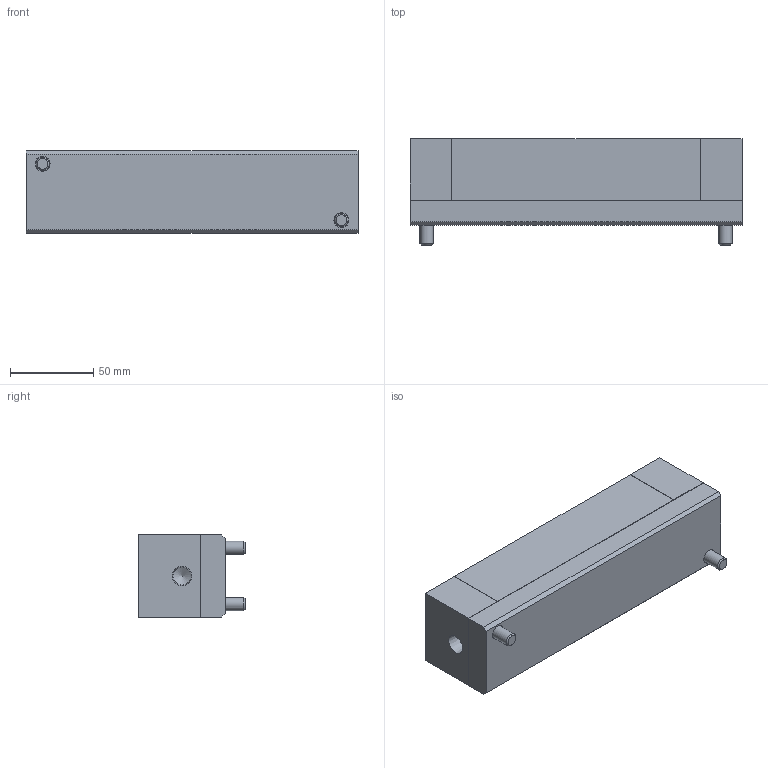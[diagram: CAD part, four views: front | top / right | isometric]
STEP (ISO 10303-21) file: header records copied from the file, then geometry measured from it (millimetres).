
FILE_DESCRIPTION( ( 'STEP AP214' ), '1' );
FILE_NAME( 'Z:/01-DesignData/標準品図面/★Web／カタログ用データ(型式別 3点Set)/072-ISR-C50D 系/ISR-C50D-200-A_0_.stp', '2022-05-10T00:42:34', ( 'License CC BY-ND 4.0' ), ( 'CADENAS' ), ' ', 'PARTsolutions', ' ' );
FILE_SCHEMA( ( 'AUTOMOTIVE_DESIGN { 1 0 10303 214 1 1 1 1 }' ) );
Length unit declared in the file: millimetre
Products named in the file (5): ISR-C50D-200-A(0); _ISR-C50D-200-A-Body; _ISR-C50D-200-A-Box; _ISR-C50D-200-A(0)-Ball; _ISR-C50D-200-A-screw
Assembly tree (7 placements, depth 2):
  ISR-C50D-200-A(0)
    _ISR-C50D-200-A-Body
    _ISR-C50D-200-A-Box
    _ISR-C50D-200-A(0)-Ball  x3
    _ISR-C50D-200-A-screw  x2
Bounding box: 200 x 64 x 49.5 mm (x, y, z)
Volume: 490299.1 mm3; surface area: 113354.4 mm2
Topology: 7 solids, 7 shells, 278 faces, 600 edges, 365 vertices
Faces by surface type: plane 203, cylinder 39, cone 17, torus 16, sphere 3
Full cylindrical faces by diameter (mm): 8 x2, 8.5 x6, 9 x2, 9.5 x6, 13 x4, 14.5 x4, 25.4 x3, 38.5 x3, 39 x3, 42 x6
Entity records: 7976 total; most frequent: DIRECTION 1066, CARTESIAN_POINT 995, ORIENTED_EDGE 886, EDGE_CURVE 443, AXIS2_PLACEMENT_3D 377, EDGE_LOOP 324, LINE 312, VECTOR 312
